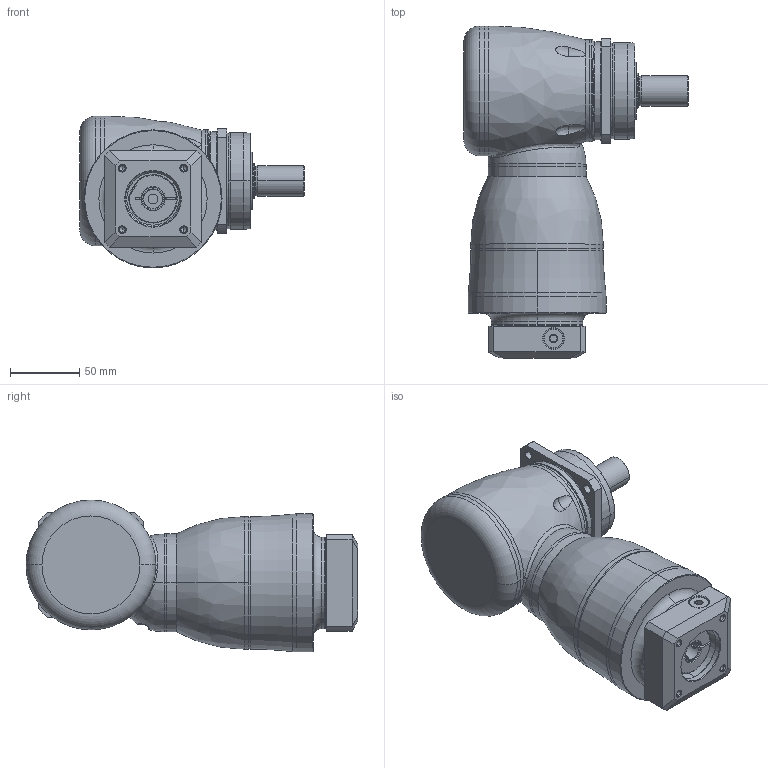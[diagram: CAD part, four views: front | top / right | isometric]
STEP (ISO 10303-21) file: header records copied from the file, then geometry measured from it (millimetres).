
FILE_DESCRIPTION((''),'2;1');
FILE_NAME('KF075_2ST_14-P0409300101_ASM','2016-06-29T',('d01943'),(''),'PRO/ENGINEER BY PARAMETRIC TECHNOLOGY CORPORATION, 2008410','PRO/ENGINEER BY PARAMETRIC TECHNOLOGY CORPORATION, 2008410','');
FILE_SCHEMA(('CONFIG_CONTROL_DESIGN'));
Length unit declared in the file: millimetre
Products named in the file (11): P1008300002; P1804300001; P0915300001; P1315300001; P1007300001; P1317300201; P0409300101; P0503300005; P0912202001; 21711410012; KF075_2ST_14-P0409300101_ASM
Assembly tree (10 placements, depth 2):
  KF075_2ST_14-P0409300101_ASM
    P1008300002
    P1804300001
    P0915300001
    P1315300001
    P1007300001
    P1317300201
    P0409300101
    P0503300005
    P0912202001
    21711410012
Bounding box: 162.5 x 240.5 x 110 mm (x, y, z)
Volume: 1256706.9 mm3; surface area: 194652.2 mm2
Topology: 11 solids, 11 shells, 463 faces, 1065 edges, 635 vertices
Faces by surface type: cylinder 147, cone 108, plane 86, torus 70, bspline 50, sphere 2
Entity records: 20650 total; most frequent: CARTESIAN_POINT 10182, DIRECTION 2260, ORIENTED_EDGE 2068, EDGE_CURVE 1034, AXIS2_PLACEMENT_3D 968, VERTEX_POINT 628, CIRCLE 534, EDGE_LOOP 524
